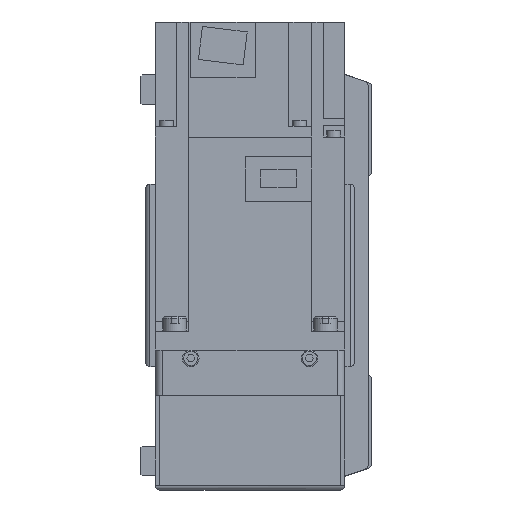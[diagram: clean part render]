
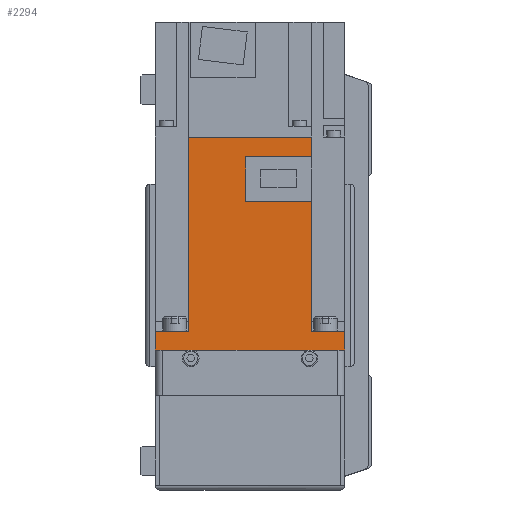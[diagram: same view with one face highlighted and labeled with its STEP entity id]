
A CAD part, left-side view. The second image highlights one B-rep face of the part: STEP entity #2294.
In plain terms, the highlighted planar face has unit normal (-1, 0, 0) as drawn and (1, 0, 0) by its records, which use the part's own axes.
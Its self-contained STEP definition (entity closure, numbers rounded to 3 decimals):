
#2294 = ADVANCED_FACE( '', ( #5002 ), #5003, .F. );
#5002 = FACE_OUTER_BOUND( '', #8124, .T. );
#5003 = PLANE( '', #8125 );
#8124 = EDGE_LOOP( '', ( #14570, #14571, #14572, #14573, #14574, #14575, #14576, #14577, #14578, #14579, #14580, #14581 ) );
#8125 = AXIS2_PLACEMENT_3D( '', #14582, #14583, #14584 );
#14570 = ORIENTED_EDGE( '', *, *, #20535, .F. );
#14571 = ORIENTED_EDGE( '', *, *, #19567, .F. );
#14572 = ORIENTED_EDGE( '', *, *, #19394, .F. );
#14573 = ORIENTED_EDGE( '', *, *, #20536, .T. );
#14574 = ORIENTED_EDGE( '', *, *, #19811, .F. );
#14575 = ORIENTED_EDGE( '', *, *, #20051, .T. );
#14576 = ORIENTED_EDGE( '', *, *, #18886, .T. );
#14577 = ORIENTED_EDGE( '', *, *, #18210, .F. );
#14578 = ORIENTED_EDGE( '', *, *, #18375, .F. );
#14579 = ORIENTED_EDGE( '', *, *, #19569, .F. );
#14580 = ORIENTED_EDGE( '', *, *, #19007, .F. );
#14581 = ORIENTED_EDGE( '', *, *, #20537, .F. );
#14582 = CARTESIAN_POINT( '', ( 40., 89.8, 40. ) );
#14583 = DIRECTION( '', ( -1., 0., 0. ) );
#14584 = DIRECTION( '', ( 0., 0., 1. ) );
#18210 = EDGE_CURVE( '', #21773, #21775, #21776, .T. );
#18375 = EDGE_CURVE( '', #22060, #21773, #22061, .T. );
#18886 = EDGE_CURVE( '', #22926, #21775, #22927, .T. );
#19007 = EDGE_CURVE( '', #23120, #23121, #23122, .T. );
#19394 = EDGE_CURVE( '', #23741, #23739, #23743, .T. );
#19567 = EDGE_CURVE( '', #23739, #24014, #24015, .T. );
#19569 = EDGE_CURVE( '', #23121, #22060, #24017, .T. );
#19811 = EDGE_CURVE( '', #24372, #24374, #24375, .T. );
#20051 = EDGE_CURVE( '', #24372, #22926, #24728, .T. );
#20535 = EDGE_CURVE( '', #24014, #25386, #25387, .T. );
#20536 = EDGE_CURVE( '', #23741, #24374, #25388, .T. );
#20537 = EDGE_CURVE( '', #25386, #23120, #25389, .T. );
#21773 = VERTEX_POINT( '', #26930 );
#21775 = VERTEX_POINT( '', #26933 );
#21776 = LINE( '', #26934, #26935 );
#22060 = VERTEX_POINT( '', #27352 );
#22061 = LINE( '', #27353, #27354 );
#22926 = VERTEX_POINT( '', #28651 );
#22927 = LINE( '', #28652, #28653 );
#23120 = VERTEX_POINT( '', #28914 );
#23121 = VERTEX_POINT( '', #28915 );
#23122 = LINE( '', #28916, #28917 );
#23739 = VERTEX_POINT( '', #29801 );
#23741 = VERTEX_POINT( '', #29804 );
#23743 = LINE( '', #29807, #29808 );
#24014 = VERTEX_POINT( '', #30187 );
#24015 = LINE( '', #30188, #30189 );
#24017 = LINE( '', #30192, #30193 );
#24372 = VERTEX_POINT( '', #30698 );
#24374 = VERTEX_POINT( '', #30701 );
#24375 = LINE( '', #30702, #30703 );
#24728 = LINE( '', #31228, #31229 );
#25386 = VERTEX_POINT( '', #32145 );
#25387 = LINE( '', #32146, #32147 );
#25388 = LINE( '', #32148, #32149 );
#25389 = LINE( '', #32150, #32151 );
#26930 = CARTESIAN_POINT( '', ( 40., 8., -40. ) );
#26933 = CARTESIAN_POINT( '', ( 40., 0., -40. ) );
#26934 = CARTESIAN_POINT( '', ( 40., 89.8, -40. ) );
#26935 = VECTOR( '', #33754, 1000. );
#27352 = CARTESIAN_POINT( '', ( 40., 8., -25.95 ) );
#27353 = CARTESIAN_POINT( '', ( 40., 8., 40. ) );
#27354 = VECTOR( '', #33976, 1000. );
#28651 = CARTESIAN_POINT( '', ( 40., 0., 40. ) );
#28652 = CARTESIAN_POINT( '', ( 40., 0., 40. ) );
#28653 = VECTOR( '', #34617, 1000. );
#28914 = CARTESIAN_POINT( '', ( 40., 62.8, 1.8 ) );
#28915 = CARTESIAN_POINT( '', ( 40., 62.8, -25.95 ) );
#28916 = CARTESIAN_POINT( '', ( 40., 62.8, 1.8 ) );
#28917 = VECTOR( '', #34777, 1000. );
#29801 = CARTESIAN_POINT( '', ( 40., 89.8, -25.95 ) );
#29804 = CARTESIAN_POINT( '', ( 40., 89.8, 25.95 ) );
#29807 = CARTESIAN_POINT( '', ( 40., 89.8, 40. ) );
#29808 = VECTOR( '', #35248, 1000. );
#30187 = CARTESIAN_POINT( '', ( 40., 81.4, -25.95 ) );
#30188 = CARTESIAN_POINT( '', ( 40., 158., -25.95 ) );
#30189 = VECTOR( '', #35442, 1000. );
#30192 = CARTESIAN_POINT( '', ( 40., 158., -25.95 ) );
#30193 = VECTOR( '', #35444, 1000. );
#30698 = CARTESIAN_POINT( '', ( 40., 8., 40. ) );
#30701 = CARTESIAN_POINT( '', ( 40., 8., 25.95 ) );
#30702 = CARTESIAN_POINT( '', ( 40., 8., 40. ) );
#30703 = VECTOR( '', #35749, 1000. );
#31228 = CARTESIAN_POINT( '', ( 40., 89.8, 40. ) );
#31229 = VECTOR( '', #36046, 1000. );
#32145 = CARTESIAN_POINT( '', ( 40., 81.4, 1.8 ) );
#32146 = CARTESIAN_POINT( '', ( 40., 81.4, -26. ) );
#32147 = VECTOR( '', #36635, 1000. );
#32148 = CARTESIAN_POINT( '', ( 40., 158., 25.95 ) );
#32149 = VECTOR( '', #36636, 1000. );
#32150 = CARTESIAN_POINT( '', ( 40., 81.4, 1.8 ) );
#32151 = VECTOR( '', #36637, 1000. );
#33754 = DIRECTION( '', ( 0., -1., 0. ) );
#33976 = DIRECTION( '', ( 0., 0., -1. ) );
#34617 = DIRECTION( '', ( 0., 0., -1. ) );
#34777 = DIRECTION( '', ( 0., 0., -1. ) );
#35248 = DIRECTION( '', ( 0., 0., -1. ) );
#35442 = DIRECTION( '', ( 0., -1., 0. ) );
#35444 = DIRECTION( '', ( 0., -1., 0. ) );
#35749 = DIRECTION( '', ( 0., 0., -1. ) );
#36046 = DIRECTION( '', ( 0., -1., 0. ) );
#36635 = DIRECTION( '', ( 0., 0., 1. ) );
#36636 = DIRECTION( '', ( 0., -1., 0. ) );
#36637 = DIRECTION( '', ( 0., -1., 0. ) );
